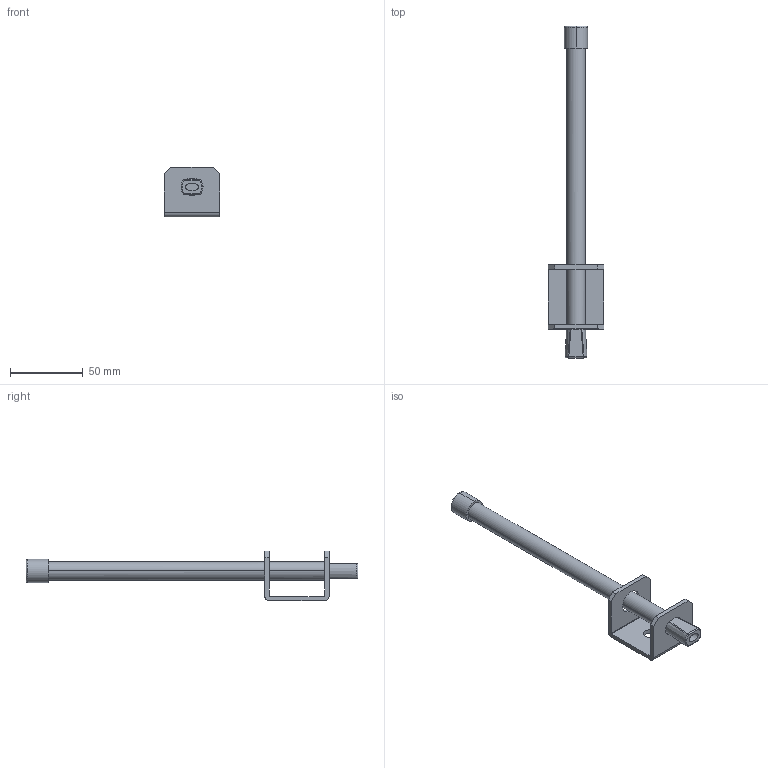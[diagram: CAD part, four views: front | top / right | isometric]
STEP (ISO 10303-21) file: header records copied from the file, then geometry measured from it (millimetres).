
FILE_DESCRIPTION (( 'STEP AP203' ), '1' );
FILE_NAME ('lrp.STEP', '2010-10-14T18:17:57', ( 'Hoffman User' ), ( 'Hoffman Enclosures' ), 'SwSTEP 2.0', 'SolidWorks 2009', '' );
FILE_SCHEMA (( 'CONFIG_CONTROL_DESIGN' ));
Length unit declared in the file: inch
Products named in the file (4): lrp; RetainingPostBrkt; RetainingPost; RetainingPostCap
Assembly tree (3 placements, depth 2):
  lrp
    RetainingPostBrkt
    RetainingPost
    RetainingPostCap
Bounding box: 38.1 x 227.71 x 34.29 mm (x, y, z)
Volume: 24613.4 mm3; surface area: 25976.1 mm2
Topology: 3 solids, 3 shells, 67 faces, 158 edges, 94 vertices
Faces by surface type: plane 25, cylinder 20, sphere 8, bspline 6, torus 5, cone 3
Entity records: 2547 total; most frequent: CARTESIAN_POINT 591, DIRECTION 343, ORIENTED_EDGE 308, EDGE_CURVE 154, AXIS2_PLACEMENT_3D 138, VERTEX_POINT 94, EDGE_LOOP 76, CIRCLE 71
